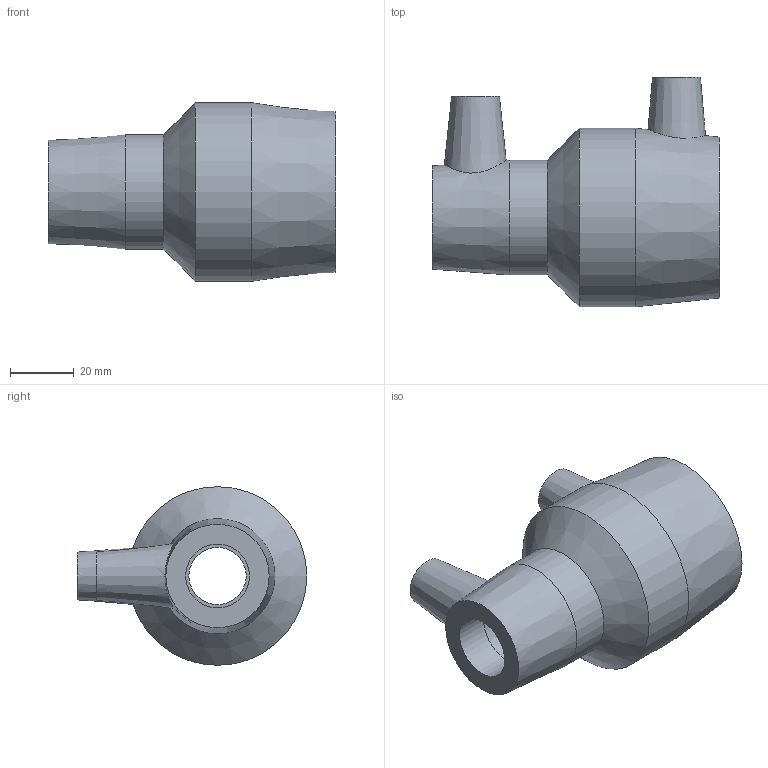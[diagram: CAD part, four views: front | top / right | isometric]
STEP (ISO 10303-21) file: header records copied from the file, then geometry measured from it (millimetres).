
FILE_DESCRIPTION(/* description */ ('PLASSON REDUCING COUPLER 40-20'),/* implementation_level */ '2;1');
FILE_NAME(/* name */ 'C:\Users\Lenora\Dropbox\99-16-3568-Processing\ElectroFusion Fittings\491104\491104040020.ipt.stp',/* time_stamp */ '2020-12-07T22:24:08+03:00',/* author */ ('KIM'),/* organization */ (''),/* preprocessor_version */ 'ST-DEVELOPER v17.2',/* originating_system */ 'Autodesk Inventor 2019',/* authorisation */ '');
FILE_SCHEMA (('AUTOMOTIVE_DESIGN { 1 0 10303 214 3 1 1 }'));
Length unit declared in the file: millimetre
Products named in the file (1): 491104040020
Bounding box: 90 x 72 x 56 mm (x, y, z)
Volume: 88268 mm3; surface area: 27462 mm2
Topology: 1 solids, 1 shells, 31 faces, 72 edges, 53 vertices
Faces by surface type: plane 12, cylinder 11, cone 8
Full cylindrical faces by diameter (mm): 4 x2, 10 x2, 18 x1, 20 x2, 36 x1, 40 x2, 56 x1
Entity records: 1044 total; most frequent: CARTESIAN_POINT 229, DIRECTION 181, ORIENTED_EDGE 144, AXIS2_PLACEMENT_3D 81, EDGE_CURVE 72, VERTEX_POINT 53, CIRCLE 49, EDGE_LOOP 43
